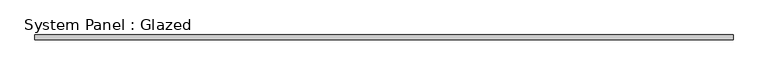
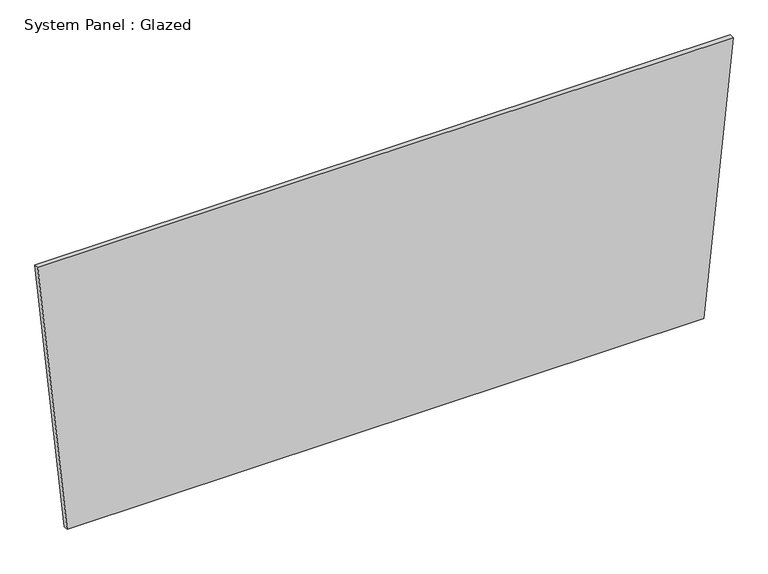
"""IFC4 building model written with IfcOpenShell, lengths in millimetres: plate geometry, System Panel : Glazed."""

from ifc_helpers import new_model, si_unit, frame, origin, place, context, project, spatial, polyline, outline, extrude, source, transform, mapped, element, save


def system_panel_glazed_9fd5a8b6(model_context):
    return source(origin(), model_context, "Body", "SweptSolid", [
        extrude(outline(polyline([(0.0, -1680.9410542), (0.0, 1680.9410542), (1516.0741974, 1836.1667867), (1516.0741974, -1836.1667867), (0.0, -1680.9410542)])), frame((0.0, -44.45, 0.0), z_axis=(0.0, 1.0, 0.0), x_axis=(0.0, 0.0, 1.0)), (0.0, 0.0, 1.0), 25.4),
    ])


if __name__ == "__main__":
    model = new_model("IFC4")
    model_context = context("Model", 3, world=origin())
    ifc_project = project(units=[si_unit("LENGTHUNIT", "METRE", prefix="MILLI")], contexts=[model_context])
    site = spatial("IfcSite", under=ifc_project)
    building = spatial("IfcBuilding", under=site)
    placement = place(None, origin())
    system_panel_glazed_shape = system_panel_glazed_9fd5a8b6(model_context)
    element("IfcPlate", 1, ObjectType="System Panel : Glazed", at=placement, inside=building, context=model_context, shape_type="MappedRepresentation", body=[
        mapped(system_panel_glazed_shape, transform((0.0, 0.0, 0.0), x_axis=(1.0, 0.0, 0.0), y_axis=(0.0, 1.0, 0.0), z_axis=(0.0, 0.0, 1.0))),
    ])
    save(model, "model.ifc")
